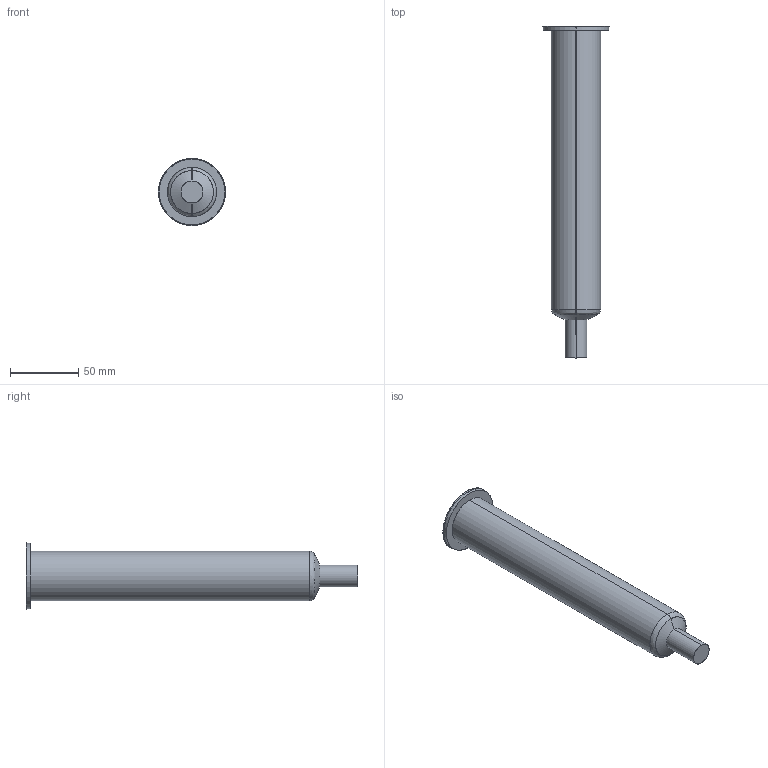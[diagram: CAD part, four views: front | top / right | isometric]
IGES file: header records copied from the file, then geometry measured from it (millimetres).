
Start section: SolidWorks IGES file using analytic representation for surfaces
Global section: file name: C:\Documents and Settings\ws-20\Desktop\TEMPORANEA\Sede UGBE5005-M-A C-214 L-234 P-25.IGS; native system: SolidWorks 2012; preprocessor: SolidWorks 2012; author: ws-20; date: 120307.090807; units: millimetre
Bounding box: 49 x 242.54 x 49 mm (x, y, z)
Surface area: 29001.5 mm2 (no closed solid volume)
Topology: 0 solids, 0 shells, 15 faces, 272 edges, 272 vertices
Faces by surface type: revolution 10, bspline 5
